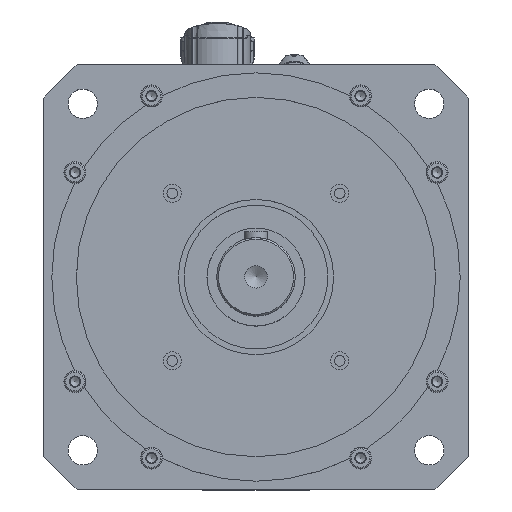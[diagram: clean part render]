
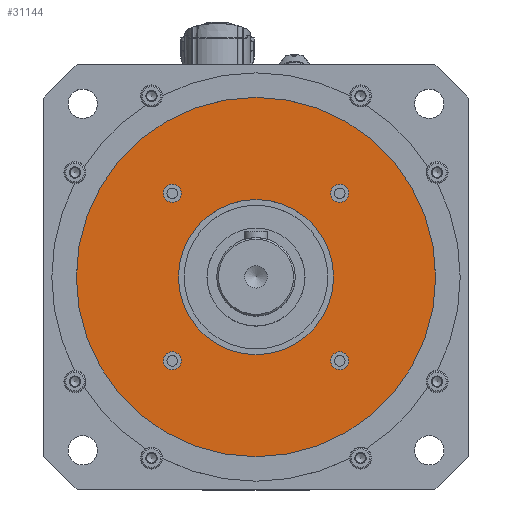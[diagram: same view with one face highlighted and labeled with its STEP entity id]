
A CAD part, top view. The second image highlights one B-rep face of the part: STEP entity #31144.
In plain terms, the highlighted planar face has unit normal (0, 0, 1).
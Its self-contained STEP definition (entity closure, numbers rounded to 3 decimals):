
#9316=FACE_BOUND('',#10135,.T.);
#9317=FACE_BOUND('',#10136,.T.);
#9318=FACE_BOUND('',#10137,.T.);
#9319=FACE_BOUND('',#10138,.T.);
#9320=FACE_BOUND('',#10139,.T.);
#9321=FACE_BOUND('',#10140,.T.);
#10135=EDGE_LOOP('',(#21792));
#10136=EDGE_LOOP('',(#21793));
#10137=EDGE_LOOP('',(#21794));
#10138=EDGE_LOOP('',(#21795));
#10139=EDGE_LOOP('',(#21796));
#10140=EDGE_LOOP('',(#21797));
#12647=CIRCLE('',#33097,5.5);
#12650=CIRCLE('',#33103,5.5);
#12653=CIRCLE('',#33109,5.5);
#12656=CIRCLE('',#33115,5.5);
#12716=CIRCLE('',#33221,47.5);
#12717=CIRCLE('',#33224,110.);
#14143=VERTEX_POINT('',#45023);
#14146=VERTEX_POINT('',#45032);
#14149=VERTEX_POINT('',#45041);
#14152=VERTEX_POINT('',#45050);
#14216=VERTEX_POINT('',#45247);
#14217=VERTEX_POINT('',#45251);
#17234=EDGE_CURVE('',#14143,#14143,#12647,.T.);
#17237=EDGE_CURVE('',#14146,#14146,#12650,.T.);
#17240=EDGE_CURVE('',#14149,#14149,#12653,.T.);
#17243=EDGE_CURVE('',#14152,#14152,#12656,.T.);
#17330=EDGE_CURVE('',#14216,#14216,#12716,.T.);
#17331=EDGE_CURVE('',#14217,#14217,#12717,.T.);
#21792=ORIENTED_EDGE('',*,*,#17234,.T.);
#21793=ORIENTED_EDGE('',*,*,#17237,.T.);
#21794=ORIENTED_EDGE('',*,*,#17240,.T.);
#21795=ORIENTED_EDGE('',*,*,#17243,.T.);
#21796=ORIENTED_EDGE('',*,*,#17330,.T.);
#21797=ORIENTED_EDGE('',*,*,#17331,.F.);
#30263=PLANE('',#33225);
#31144=ADVANCED_FACE('',(#9316,#9317,#9318,#9319,#9320,#9321),#30263,.T.);
#33097=AXIS2_PLACEMENT_3D('',#45024,#36517,#36518);
#33103=AXIS2_PLACEMENT_3D('',#45033,#36529,#36530);
#33109=AXIS2_PLACEMENT_3D('',#45042,#36541,#36542);
#33115=AXIS2_PLACEMENT_3D('',#45051,#36553,#36554);
#33221=AXIS2_PLACEMENT_3D('',#45248,#36792,#36793);
#33224=AXIS2_PLACEMENT_3D('',#45252,#36798,#36799);
#33225=AXIS2_PLACEMENT_3D('',#45253,#36800,#36801);
#36517=DIRECTION('center_axis',(0.,0.,-1.));
#36518=DIRECTION('ref_axis',(0.,-1.,0.));
#36529=DIRECTION('center_axis',(0.,0.,-1.));
#36530=DIRECTION('ref_axis',(-1.,0.,0.));
#36541=DIRECTION('center_axis',(0.,0.,-1.));
#36542=DIRECTION('ref_axis',(0.,1.,0.));
#36553=DIRECTION('center_axis',(0.,0.,-1.));
#36554=DIRECTION('ref_axis',(1.,0.,0.));
#36792=DIRECTION('center_axis',(0.,0.,-1.));
#36793=DIRECTION('ref_axis',(-1.,0.,0.));
#36798=DIRECTION('center_axis',(0.,0.,-1.));
#36799=DIRECTION('ref_axis',(-1.,0.,0.));
#36800=DIRECTION('center_axis',(0.,0.,1.));
#36801=DIRECTION('ref_axis',(1.,0.,0.));
#45023=CARTESIAN_POINT('',(51.265,45.765,47.));
#45024=CARTESIAN_POINT('Origin',(51.265,51.265,47.));
#45032=CARTESIAN_POINT('',(45.765,-51.265,47.));
#45033=CARTESIAN_POINT('Origin',(51.265,-51.265,47.));
#45041=CARTESIAN_POINT('',(-51.265,-45.765,47.));
#45042=CARTESIAN_POINT('Origin',(-51.265,-51.265,47.));
#45050=CARTESIAN_POINT('',(-45.765,51.265,47.));
#45051=CARTESIAN_POINT('Origin',(-51.265,51.265,47.));
#45247=CARTESIAN_POINT('',(47.5,0.,47.));
#45248=CARTESIAN_POINT('Origin',(0.,0.,47.));
#45251=CARTESIAN_POINT('',(110.,0.,47.));
#45252=CARTESIAN_POINT('Origin',(0.,0.,47.));
#45253=CARTESIAN_POINT('Origin',(0.,0.,47.));
